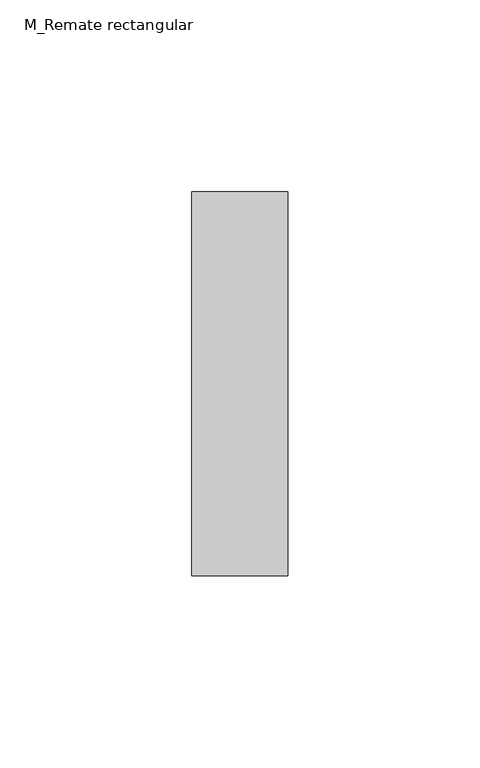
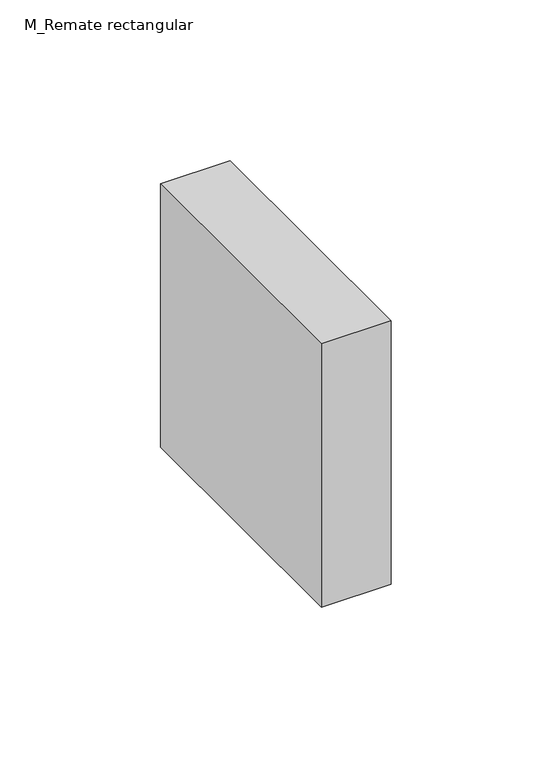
"""IFC4 building model written with IfcOpenShell, lengths in millimetres: duct fitting geometry, M_Remate rectangular : Estándar."""

from ifc_helpers import new_model, si_unit, frame, origin, place, context, project, spatial, polyline, outline, extrude, source, transform, mapped, element, save


def m_remate_rectangular_9d72104d(model_context):
    return source(origin(), model_context, "Body", "SweptSolid", [
        extrude(outline(polyline([(0.0, -50.0), (0.0, 50.0), (25.0, 50.0), (25.0, -50.0), (0.0, -50.0)])), frame((0.0, 0.0, -50.0), z_axis=(0.0, 0.0, 1.0), x_axis=(1.0, 0.0, 0.0)), (0.0, 0.0, 1.0), 100.0),
    ])


if __name__ == "__main__":
    model = new_model("IFC4")
    model_context = context("Model", 3, world=origin())
    ifc_project = project(units=[si_unit("LENGTHUNIT", "METRE", prefix="MILLI")], contexts=[model_context])
    site = spatial("IfcSite", under=ifc_project)
    building = spatial("IfcBuilding", under=site)
    placement = place(None, origin())
    m_remate_rectangular_shape = m_remate_rectangular_9d72104d(model_context)
    element("IfcDuctFitting", 1, ObjectType="M_Remate rectangular : Estándar", at=placement, inside=building, context=model_context, shape_type="MappedRepresentation", body=[
        mapped(m_remate_rectangular_shape, transform((0.0, 0.0, 0.0), x_axis=(1.0, 0.0, 0.0), y_axis=(0.0, 1.0, 0.0), z_axis=(0.0, 0.0, 1.0))),
    ])
    save(model, "model.ifc")
